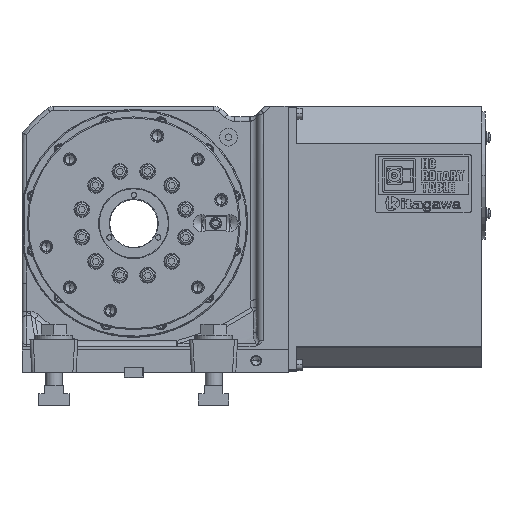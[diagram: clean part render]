
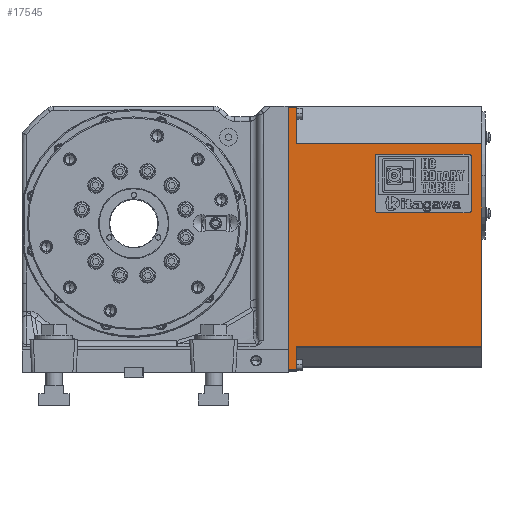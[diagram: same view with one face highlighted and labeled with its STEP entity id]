
A CAD part, top view. The second image highlights one B-rep face of the part: STEP entity #17545.
In plain terms, the highlighted planar face has unit normal (0, 0, 1).
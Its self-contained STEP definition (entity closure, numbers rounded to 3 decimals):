
#243 = DIRECTION ( 'NONE',  ( 0., 1., 0. ) ) ;
#1702 = LINE ( 'NONE', #28198, #89921 ) ;
#1945 = DIRECTION ( 'NONE',  ( 0., -1., 0. ) ) ;
#3625 = ORIENTED_EDGE ( 'NONE', *, *, #52265, .T. ) ;
#6686 = VERTEX_POINT ( 'NONE', #64708 ) ;
#7703 = EDGE_CURVE ( 'NONE', #96332, #6686, #1702, .T. ) ;
#13279 = VERTEX_POINT ( 'NONE', #74256 ) ;
#14526 = CARTESIAN_POINT ( 'NONE',  ( 0., 1., 0. ) ) ;
#17545 = ADVANCED_FACE ( 'NONE', ( #71878 ), #44219, .F. ) ;
#19175 = ORIENTED_EDGE ( 'NONE', *, *, #57040, .F. ) ;
#19741 = CARTESIAN_POINT ( 'NONE',  ( 8., 0., 0. ) ) ;
#20059 = DIRECTION ( 'NONE',  ( -1., 0., 0. ) ) ;
#23948 = CARTESIAN_POINT ( 'NONE',  ( 8., 213.212, 0. ) ) ;
#25642 = VERTEX_POINT ( 'NONE', #14526 ) ;
#27236 = VERTEX_POINT ( 'NONE', #48888 ) ;
#27579 = VECTOR ( 'NONE', #110177, 1000. ) ;
#28198 = CARTESIAN_POINT ( 'NONE',  ( 182., 22.5, 0. ) ) ;
#31543 = VECTOR ( 'NONE', #99053, 1000. ) ;
#35515 = LINE ( 'NONE', #41427, #56222 ) ;
#37048 = CARTESIAN_POINT ( 'NONE',  ( 8., 0., 0. ) ) ;
#39474 = EDGE_CURVE ( 'NONE', #13279, #25642, #63033, .T. ) ;
#41427 = CARTESIAN_POINT ( 'NONE',  ( 8., 213.212, 0. ) ) ;
#41481 = CARTESIAN_POINT ( 'NONE',  ( 182., 213.212, 0. ) ) ;
#41677 = CARTESIAN_POINT ( 'NONE',  ( 8., 1., 0. ) ) ;
#42310 = VECTOR ( 'NONE', #61088, 1000. ) ;
#42769 = VECTOR ( 'NONE', #1945, 1000. ) ;
#44219 = PLANE ( 'NONE',  #108271 ) ;
#44667 = LINE ( 'NONE', #41677, #47485 ) ;
#45315 = ORIENTED_EDGE ( 'NONE', *, *, #39474, .T. ) ;
#47485 = VECTOR ( 'NONE', #76735, 1000. ) ;
#48888 = CARTESIAN_POINT ( 'NONE',  ( 8., 1., 0. ) ) ;
#52265 = EDGE_CURVE ( 'NONE', #97578, #13279, #84334, .T. ) ;
#53111 = DIRECTION ( 'NONE',  ( 0., 0., -1. ) ) ;
#53467 = ORIENTED_EDGE ( 'NONE', *, *, #111434, .T. ) ;
#53603 = ORIENTED_EDGE ( 'NONE', *, *, #7703, .F. ) ;
#56222 = VECTOR ( 'NONE', #67633, 1000. ) ;
#57040 = EDGE_CURVE ( 'NONE', #97578, #109664, #81128, .T. ) ;
#58197 = EDGE_LOOP ( 'NONE', ( #63578, #72767, #53603, #90263, #19175, #3625, #45315, #53467 ) ) ;
#61088 = DIRECTION ( 'NONE',  ( 0., -1., 0. ) ) ;
#63033 = LINE ( 'NONE', #113711, #42310 ) ;
#63578 = ORIENTED_EDGE ( 'NONE', *, *, #74784, .F. ) ;
#64708 = CARTESIAN_POINT ( 'NONE',  ( 182., 22.914, 0. ) ) ;
#65981 = CARTESIAN_POINT ( 'NONE',  ( 8., 22.914, 0. ) ) ;
#66209 = LINE ( 'NONE', #37048, #42769 ) ;
#67633 = DIRECTION ( 'NONE',  ( -1., 0., 0. ) ) ;
#67782 = EDGE_CURVE ( 'NONE', #97683, #6686, #77275, .T. ) ;
#71878 = FACE_OUTER_BOUND ( 'NONE', #58197, .T. ) ;
#72504 = CARTESIAN_POINT ( 'NONE',  ( 8., 247.5, 0. ) ) ;
#72767 = ORIENTED_EDGE ( 'NONE', *, *, #67782, .T. ) ;
#74256 = CARTESIAN_POINT ( 'NONE',  ( 0., 247.5, 0. ) ) ;
#74784 = EDGE_CURVE ( 'NONE', #97683, #27236, #66209, .T. ) ;
#76735 = DIRECTION ( 'NONE',  ( 1., 0., 0. ) ) ;
#77275 = LINE ( 'NONE', #65981, #27579 ) ;
#80804 = CARTESIAN_POINT ( 'NONE',  ( 8., 22.914, 0. ) ) ;
#81128 = LINE ( 'NONE', #19741, #31543 ) ;
#81359 = DIRECTION ( 'NONE',  ( 0., -1., 0. ) ) ;
#84334 = LINE ( 'NONE', #72504, #104953 ) ;
#88658 = EDGE_CURVE ( 'NONE', #96332, #109664, #35515, .T. ) ;
#89921 = VECTOR ( 'NONE', #81359, 1000. ) ;
#90263 = ORIENTED_EDGE ( 'NONE', *, *, #88658, .T. ) ;
#96332 = VERTEX_POINT ( 'NONE', #41481 ) ;
#97578 = VERTEX_POINT ( 'NONE', #105830 ) ;
#97683 = VERTEX_POINT ( 'NONE', #80804 ) ;
#99053 = DIRECTION ( 'NONE',  ( 0., -1., 0. ) ) ;
#104953 = VECTOR ( 'NONE', #20059, 1000. ) ;
#105746 = CARTESIAN_POINT ( 'NONE',  ( 8., 0., 0. ) ) ;
#105830 = CARTESIAN_POINT ( 'NONE',  ( 8., 247.5, 0. ) ) ;
#108271 = AXIS2_PLACEMENT_3D ( 'NONE', #105746, #53111, #243 ) ;
#109664 = VERTEX_POINT ( 'NONE', #23948 ) ;
#110177 = DIRECTION ( 'NONE',  ( 1., 0., 0. ) ) ;
#111434 = EDGE_CURVE ( 'NONE', #25642, #27236, #44667, .T. ) ;
#113711 = CARTESIAN_POINT ( 'NONE',  ( 0., 0., 0. ) ) ;
